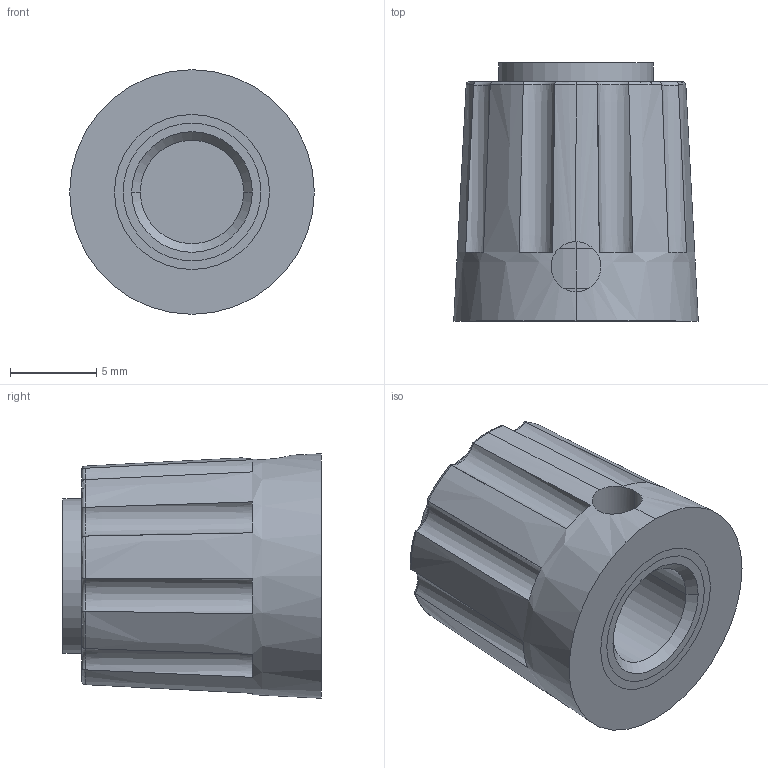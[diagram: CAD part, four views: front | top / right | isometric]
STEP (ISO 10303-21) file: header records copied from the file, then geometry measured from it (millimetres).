
FILE_DESCRIPTION (( 'STEP AP203' ), '1' );
FILE_NAME ('A-110.STEP', '2024-06-10T08:55:36', ( '' ), ( '' ), 'SwSTEP 2.0', 'SolidWorks 2021', '' );
FILE_SCHEMA (( 'CONFIG_CONTROL_DESIGN' ));
Length unit declared in the file: millimetre
Products named in the file (4): A-110_yuzuk; parca 1; parca 2; A-110
Assembly tree (3 placements, depth 2):
  A-110
    parca 1
    parca 2
    A-110_yuzuk
Bounding box: 14.2 x 15 x 14.2 mm (x, y, z)
Volume: 1582.4 mm3; surface area: 1783.5 mm2
Topology: 3 solids, 3 shells, 77 faces, 203 edges, 132 vertices
Faces by surface type: torus 22, plane 22, cone 18, cylinder 15
Entity records: 3023 total; most frequent: CARTESIAN_POINT 718, DIRECTION 411, ORIENTED_EDGE 406, EDGE_CURVE 203, AXIS2_PLACEMENT_3D 187, VERTEX_POINT 132, CIRCLE 104, EDGE_LOOP 83
